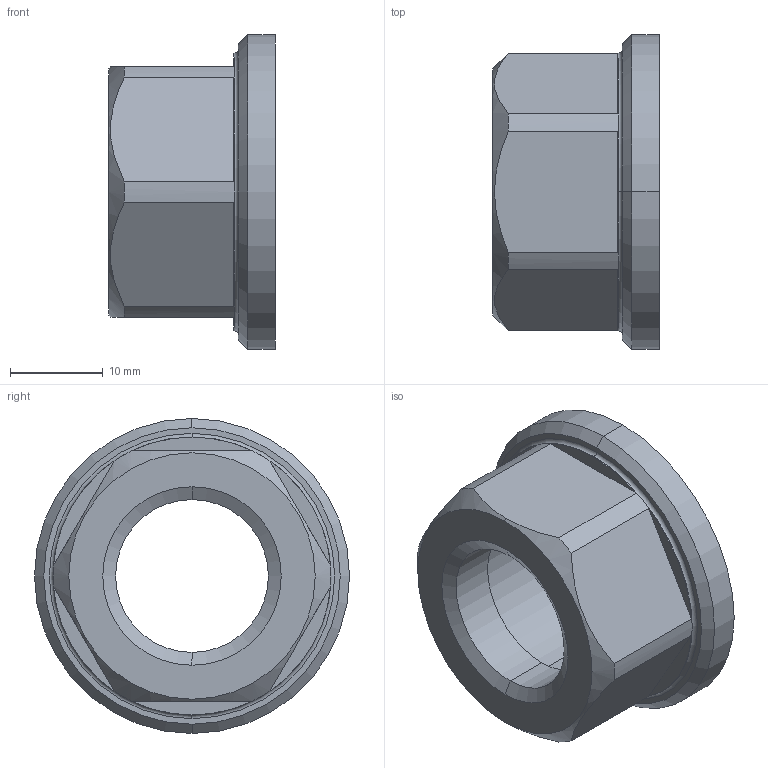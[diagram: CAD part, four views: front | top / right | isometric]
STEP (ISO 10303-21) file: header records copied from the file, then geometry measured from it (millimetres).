
FILE_DESCRIPTION (( 'STEP AP214' ), '1' );
FILE_NAME ('HANDLE_NUT_EX.STEP', '2016-04-25T07:25:37', ( '' ), ( '' ), 'SwSTEP 2.0', 'SolidWorks 2014', '' );
FILE_SCHEMA (( 'AUTOMOTIVE_DESIGN' ));
Length unit declared in the file: millimetre
Products named in the file (2): HANDLE_NUT_EX
Bounding box: 18 x 34 x 34 mm (x, y, z)
Volume: 7246 mm3; surface area: 4195.6 mm2
Topology: 1 solids, 1 shells, 45 faces, 104 edges, 64 vertices
Faces by surface type: plane 17, cylinder 12, cone 8, torus 8
Entity records: 1435 total; most frequent: CARTESIAN_POINT 303, DIRECTION 248, ORIENTED_EDGE 208, AXIS2_PLACEMENT_3D 105, EDGE_CURVE 104, VERTEX_POINT 64, CIRCLE 58, EDGE_LOOP 50
